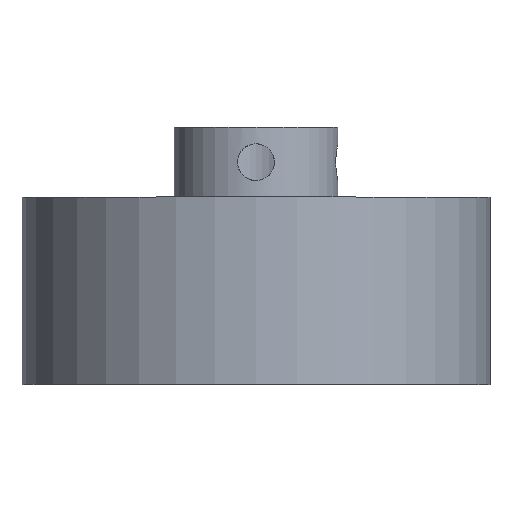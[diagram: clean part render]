
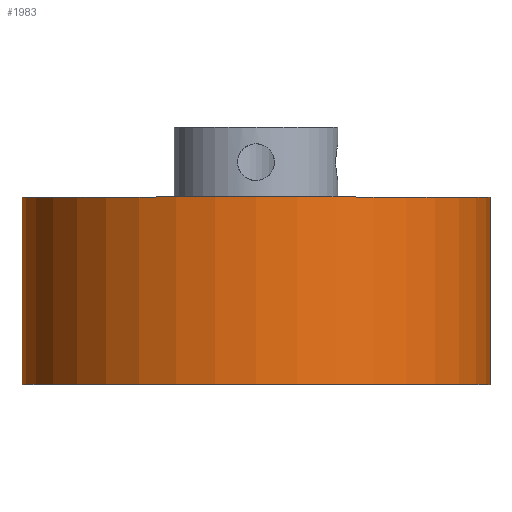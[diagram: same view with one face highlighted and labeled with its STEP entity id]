
A CAD part, top view. The second image highlights one B-rep face of the part: STEP entity #1983.
In plain terms, the highlighted cylindrical face has radius 31.75 mm (diameter 63.5 mm), a full revolution.
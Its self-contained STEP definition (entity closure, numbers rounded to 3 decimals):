
#178=FACE_OUTER_BOUND('',#272,.T.);
#272=EDGE_LOOP('',(#1531,#1532,#1533,#1534));
#458=LINE('',#3318,#604);
#604=VECTOR('',#2772,31.75);
#723=CIRCLE('',#2213,31.75);
#724=CIRCLE('',#2214,31.75);
#899=VERTEX_POINT('',#3315);
#900=VERTEX_POINT('',#3317);
#1170=EDGE_CURVE('',#899,#899,#723,.T.);
#1171=EDGE_CURVE('',#899,#900,#458,.T.);
#1172=EDGE_CURVE('',#900,#900,#724,.T.);
#1531=ORIENTED_EDGE('',*,*,#1170,.F.);
#1532=ORIENTED_EDGE('',*,*,#1171,.T.);
#1533=ORIENTED_EDGE('',*,*,#1172,.T.);
#1534=ORIENTED_EDGE('',*,*,#1171,.F.);
#1800=CYLINDRICAL_SURFACE('',#2212,31.75);
#1983=ADVANCED_FACE('',(#178),#1800,.T.);
#2212=AXIS2_PLACEMENT_3D('',#3314,#2768,#2769);
#2213=AXIS2_PLACEMENT_3D('',#3316,#2770,#2771);
#2214=AXIS2_PLACEMENT_3D('',#3319,#2773,#2774);
#2768=DIRECTION('center_axis',(0.,1.,0.));
#2769=DIRECTION('ref_axis',(-1.,0.,0.));
#2770=DIRECTION('center_axis',(0.,1.,0.));
#2771=DIRECTION('ref_axis',(-1.,0.,0.));
#2772=DIRECTION('',(0.,-1.,0.));
#2773=DIRECTION('center_axis',(0.,1.,0.));
#2774=DIRECTION('ref_axis',(-1.,0.,0.));
#3314=CARTESIAN_POINT('Origin',(0.,0.,0.));
#3315=CARTESIAN_POINT('',(31.75,25.4,0.));
#3316=CARTESIAN_POINT('Origin',(0.,25.4,0.));
#3317=CARTESIAN_POINT('',(31.75,0.,0.));
#3318=CARTESIAN_POINT('',(31.75,0.,0.));
#3319=CARTESIAN_POINT('Origin',(0.,0.,0.));
